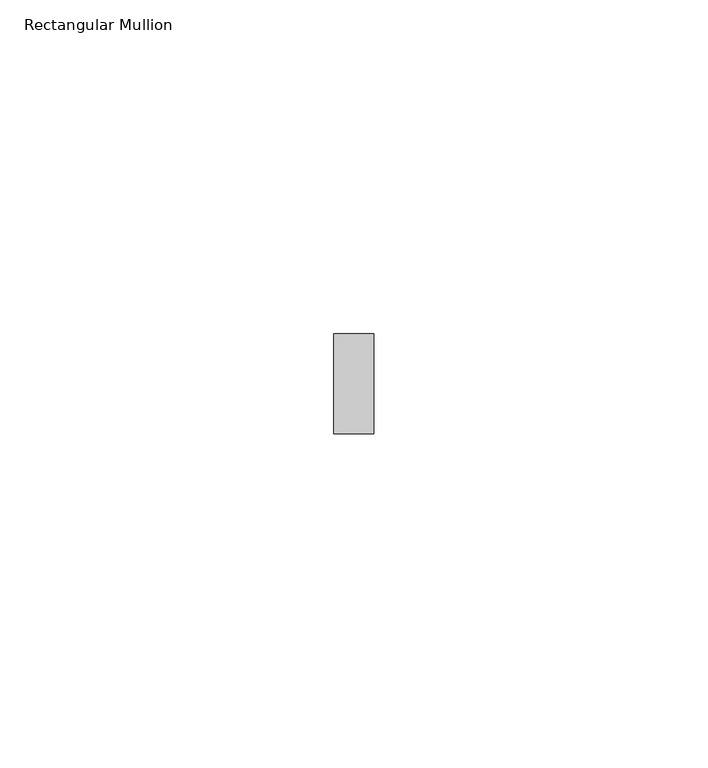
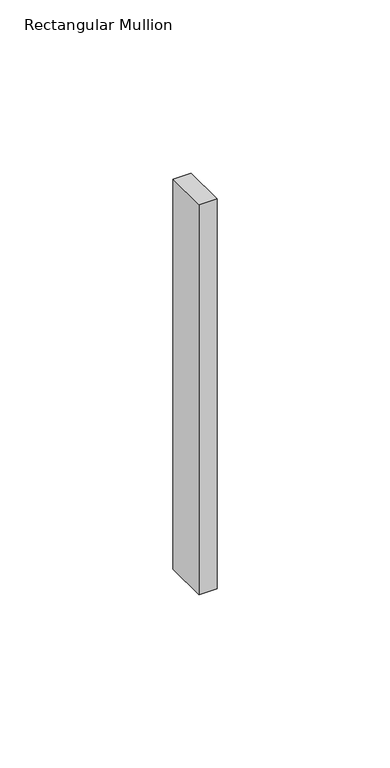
"""IFC4 building model written with IfcOpenShell, lengths in millimetres: member geometry, Rectangular Mullion : ARQ_HERR_15X6mm."""

from ifc_helpers import new_model, si_unit, frame, origin, place, context, project, spatial, polyline, outline, extrude, source, transform, mapped, element, save


def rectangular_mullion_0e712f1e(model_context):
    return source(origin(), model_context, "Body", "SweptSolid", [
        extrude(outline(polyline([(3.0, 7.5), (3.0, -7.5), (-3.0, -7.5), (-3.0, 7.5), (3.0, 7.5)])), frame((0.0, 0.0, -137.5), z_axis=(0.0, 0.0, 1.0), x_axis=(1.0, 0.0, 0.0)), (0.0, 0.0, 1.0), 137.5),
    ])


if __name__ == "__main__":
    model = new_model("IFC4")
    model_context = context("Model", 3, world=origin())
    ifc_project = project(units=[si_unit("LENGTHUNIT", "METRE", prefix="MILLI")], contexts=[model_context])
    site = spatial("IfcSite", under=ifc_project)
    building = spatial("IfcBuilding", under=site)
    placement = place(None, origin())
    rectangular_mullion_shape = rectangular_mullion_0e712f1e(model_context)
    element("IfcMember", 1, ObjectType="Rectangular Mullion : ARQ_HERR_15X6mm", at=placement, inside=building, context=model_context, shape_type="MappedRepresentation", body=[
        mapped(rectangular_mullion_shape, transform((0.0, 0.0, 0.0), x_axis=(1.0, 0.0, 0.0), y_axis=(0.0, 1.0, 0.0), z_axis=(0.0, 0.0, 1.0))),
    ])
    save(model, "model.ifc")
